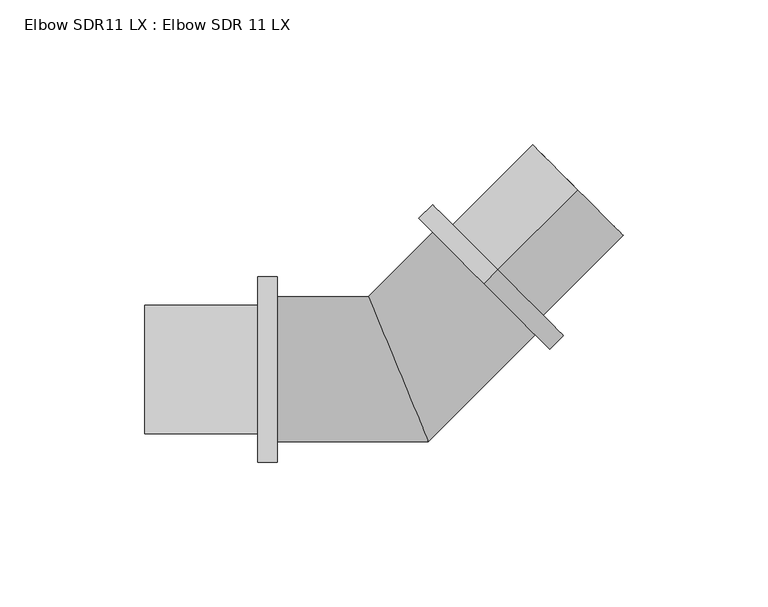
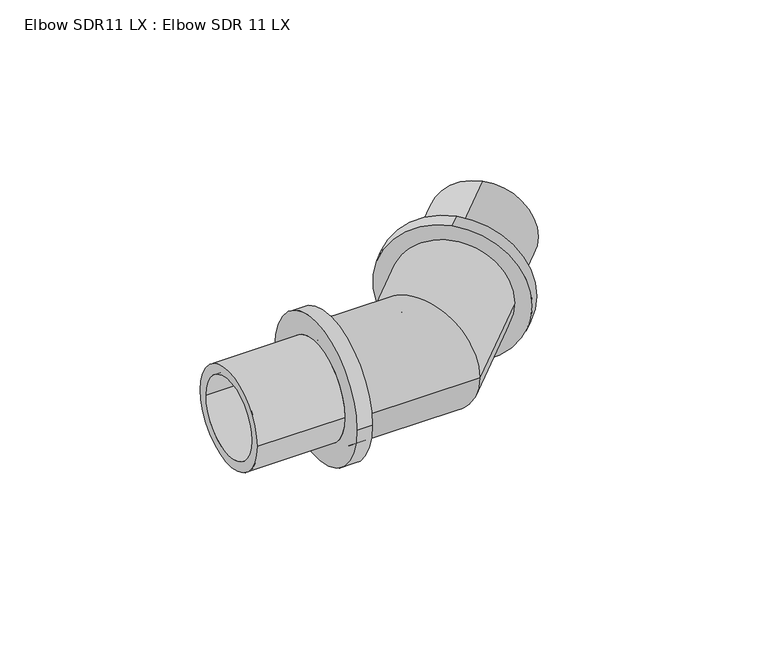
"""IFC4 building model written with IfcOpenShell, lengths in millimetres: pipe fitting geometry, Elbow SDR11 LX : Elbow SDR 11 LX."""

from ifc_helpers import new_model, si_unit, frame, origin, place, context, project, spatial, polyline, circle_curve, ellipse_curve, source, transform, mapped, element, save
from ifc_brep_helpers import plane_surface, cylinder_surface, revolved_surface, advanced_brep


def elbow_sdr11_lx_elbow_sdr_11_lx_cb8a91fe(model_context):
    return source(origin(), model_context, "Body", "AdvancedBrep", [
        advanced_brep(
        [(-41.8, -25.0, 0.0), (-41.8, 25.0, 0.0), (-41.8, -17.75, 0.0), (-41.8, 17.75, 0.0), (10.3553391, -25.0, 0.0), (-10.3553391, 25.0, 0.0), (7.3522907, -17.75, 0.0), (-7.3522907, 17.75, 0.0), (47.234733, 11.8793939, 0.0), (11.8793939, 47.234733, 0.0), (42.1082088, 17.0059181, 0.0), (17.0059181, 42.1082088, 0.0)],
        [
            (0, 1, circle_curve(frame((-41.8, 0.0, 0.0), z_axis=(-1.0, 0.0, 0.0), x_axis=(0.0, 1.0, 0.0)), 25.0)),
            (1, 0, circle_curve(frame((-41.8, 0.0, 0.0), z_axis=(-1.0, 0.0, 0.0), x_axis=(0.0, 1.0, 0.0)), 25.0)),
            (2, 3, circle_curve(frame((-41.8, 0.0, 0.0), z_axis=(1.0, 0.0, 0.0), x_axis=(0.0, 1.0, 0.0)), 17.75)),
            (3, 2, circle_curve(frame((-41.8, 0.0, 0.0), z_axis=(1.0, 0.0, 0.0), x_axis=(0.0, 1.0, 0.0)), 17.75)),
            (0, 4),
            (4, 5, ellipse_curve(frame((0.0, 0.0, 0.0), z_axis=(-0.9238795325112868, -0.38268343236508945, 0.0), x_axis=(-0.3826834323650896, 0.923879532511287, 0.0)), 27.059805, 25.0)),
            (5, 1),
            (5, 4, ellipse_curve(frame((0.0, 0.0, 0.0), z_axis=(-0.9238795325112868, -0.38268343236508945, 0.0), x_axis=(-0.3826834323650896, 0.923879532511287, 0.0)), 27.059805, 25.0)),
            (2, 6),
            (6, 7, ellipse_curve(frame((0.0, 0.0, 0.0), z_axis=(0.9238795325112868, 0.38268343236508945, 0.0), x_axis=(0.3826834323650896, -0.923879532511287, 0.0)), 19.2124616, 17.75)),
            (7, 3),
            (7, 6, ellipse_curve(frame((0.0, 0.0, 0.0), z_axis=(0.9238795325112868, 0.38268343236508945, 0.0), x_axis=(0.3826834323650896, -0.923879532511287, 0.0)), 19.2124616, 17.75)),
            (8, 9, circle_curve(frame((29.5570635, 29.5570635, 0.0), z_axis=(0.707106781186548, 0.707106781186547, 0.0), x_axis=(-0.707106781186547, 0.707106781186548, 0.0)), 25.0)),
            (9, 8, circle_curve(frame((29.5570635, 29.5570635, 0.0), z_axis=(0.707106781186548, 0.707106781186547, 0.0), x_axis=(-0.707106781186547, 0.707106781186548, 0.0)), 25.0)),
            (10, 11, circle_curve(frame((29.5570635, 29.5570635, 0.0), z_axis=(-0.707106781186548, -0.707106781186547, 0.0), x_axis=(-0.707106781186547, 0.707106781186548, 0.0)), 17.75)),
            (11, 10, circle_curve(frame((29.5570635, 29.5570635, 0.0), z_axis=(-0.707106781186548, -0.707106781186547, 0.0), x_axis=(-0.707106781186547, 0.707106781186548, 0.0)), 17.75)),
            (4, 8),
            (9, 5),
            (6, 10),
            (11, 7),
        ],
        [
            plane_surface(frame((-41.8, 0.0, 0.0), z_axis=(-1.0, 0.0, 0.0), x_axis=(0.0, 0.0, 1.0))),
            cylinder_surface(frame((-41.8, 0.0, 0.0), z_axis=(-1.0, 0.0, 0.0), x_axis=(0.0, 1.0, 0.0)), 25.0),
            revolved_surface(polyline([(7.35229074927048, 17.75, 0.0), (-41.8, 17.75, 0.0)]), (-41.8, 0.0, 0.0), (1.0, 0.0, 0.0)),
            plane_surface(frame((29.5570635, 29.5570635, 0.0), z_axis=(0.707106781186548, 0.7071067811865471, 0.0), x_axis=(0.0, 0.0, 1.0))),
            cylinder_surface(frame((0.0, 0.0, 0.0), z_axis=(-0.707106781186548, -0.707106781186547, 0.0), x_axis=(-0.707106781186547, 0.707106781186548, 0.0)), 25.0),
            revolved_surface(polyline([(17.005918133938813, 42.108208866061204, 0.0), (-17.750000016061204, 7.3522907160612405, 0.0)]), (0.0, 0.0, 0.0), (0.707106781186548, 0.707106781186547, 0.0)),
        ],
        [
            (0, [[1, 2], [3, 4]]),
            (1, [[-1, 5, 6, 7]]),
            (1, [[-2, -7, 8, -5]]),
            (2, [[-3, 9, 10, 11]]),
            (2, [[-4, -11, 12, -9]]),
            (3, [[13, 14], [15, 16]]),
            (4, [[-6, 17, -14, 18]]),
            (4, [[-8, -18, -13, -17]]),
            (5, [[-10, 19, -16, 20]]),
            (5, [[-12, -20, -15, -19]]),
        ],
    ),
        advanced_brep(
        [(61.8718434, 61.8718434, 17.75), (61.8718434, 61.8718434, -17.75), (29.5570635, 29.5570635, -17.75), (29.5570635, 29.5570635, 17.75), (34.2946789, 34.2946789, 22.15), (34.2946789, 34.2946789, -22.15), (61.8718434, 61.8718434, -22.15), (61.8718434, 61.8718434, 22.15), (29.5570635, 29.5570635, 32.0), (29.5570635, 29.5570635, -32.0), (34.2946789, 34.2946789, -32.0), (34.2946789, 34.2946789, 32.0)],
        [
            (0, 1, circle_curve(frame((61.8718434, 61.8718434, 0.0), z_axis=(0.7071067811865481, 0.707106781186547, 0.0), x_axis=(0.0, 0.0, -1.0)), 17.75)),
            (1, 2),
            (2, 3, circle_curve(frame((29.5570635, 29.5570635, 0.0), z_axis=(-0.7071067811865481, -0.707106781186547, 0.0), x_axis=(0.0, 0.0, -1.0)), 17.75)),
            (3, 0),
            (4, 5, circle_curve(frame((34.2946789, 34.2946789, 0.0), z_axis=(0.7071067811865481, 0.707106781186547, 0.0), x_axis=(0.0, 0.0, -1.0)), 22.15)),
            (5, 6),
            (6, 7, circle_curve(frame((61.8718434, 61.8718434, 0.0), z_axis=(-0.7071067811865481, -0.707106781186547, 0.0), x_axis=(0.0, 0.0, -1.0)), 22.15)),
            (7, 4),
            (8, 9, circle_curve(frame((29.5570635, 29.5570635, 0.0), z_axis=(0.7071067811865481, 0.707106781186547, 0.0), x_axis=(0.0, 0.0, -1.0)), 32.0)),
            (9, 10),
            (10, 11, circle_curve(frame((34.2946789, 34.2946789, 0.0), z_axis=(-0.7071067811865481, -0.707106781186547, 0.0), x_axis=(0.0, 0.0, -1.0)), 32.0)),
            (11, 8),
            (1, 0, circle_curve(frame((61.8718434, 61.8718434, 0.0), z_axis=(0.7071067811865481, 0.707106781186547, 0.0), x_axis=(0.0, 0.0, 1.0)), 17.75)),
            (3, 2, circle_curve(frame((29.5570635, 29.5570635, 0.0), z_axis=(-0.7071067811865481, -0.707106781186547, 0.0), x_axis=(0.0, 0.0, 1.0)), 17.75)),
            (6, 7, circle_curve(frame((61.8718434, 61.8718434, 0.0), z_axis=(0.7071067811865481, 0.707106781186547, 0.0), x_axis=(0.0, 0.0, 1.0)), 22.15)),
            (5, 4, circle_curve(frame((34.2946789, 34.2946789, 0.0), z_axis=(0.7071067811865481, 0.707106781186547, 0.0), x_axis=(0.0, 0.0, 1.0)), 22.15)),
            (10, 11, circle_curve(frame((34.2946789, 34.2946789, 0.0), z_axis=(0.7071067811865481, 0.707106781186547, 0.0), x_axis=(0.0, 0.0, 1.0)), 32.0)),
            (9, 8, circle_curve(frame((29.5570635, 29.5570635, 0.0), z_axis=(0.7071067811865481, 0.707106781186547, 0.0), x_axis=(0.0, 0.0, 1.0)), 32.0)),
        ],
        [
            revolved_surface(polyline([(29.557063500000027, 29.55706349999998, -17.75), (61.87184340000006, 61.87184339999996, -17.75)]), (0.0, 0.0, 0.0), (-0.7071067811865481, -0.707106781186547, 0.0)),
            cylinder_surface(frame((0.0, 0.0, 0.0), z_axis=(-0.7071067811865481, -0.707106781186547, 0.0), x_axis=(0.0, 0.0, -1.0)), 22.15),
            cylinder_surface(frame((0.0, 0.0, 0.0), z_axis=(-0.7071067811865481, -0.707106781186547, 0.0), x_axis=(0.0, 0.0, -1.0)), 32.0),
            revolved_surface(polyline([(29.557063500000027, 29.55706349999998, 17.75), (61.87184340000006, 61.87184339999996, 17.75)]), (0.0, 0.0, 0.0), (-0.7071067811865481, -0.707106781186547, 0.0)),
            plane_surface(frame((61.8718434, 61.8718434, 0.0), z_axis=(0.7071067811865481, 0.707106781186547, 0.0), x_axis=(0.0, 0.0, 1.0))),
            cylinder_surface(frame((0.0, 0.0, 0.0), z_axis=(-0.7071067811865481, -0.707106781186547, 0.0), x_axis=(0.0, 0.0, 1.0)), 22.15),
            plane_surface(frame((34.2946789, 34.2946789, 0.0), z_axis=(0.7071067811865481, 0.707106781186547, 0.0), x_axis=(0.0, 0.0, 1.0))),
            cylinder_surface(frame((0.0, 0.0, 0.0), z_axis=(-0.7071067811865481, -0.707106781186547, 0.0), x_axis=(0.0, 0.0, 1.0)), 32.0),
            plane_surface(frame((29.5570635, 29.5570635, 0.0), z_axis=(-0.7071067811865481, -0.707106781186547, 0.0), x_axis=(0.0, 0.0, 1.0))),
        ],
        [
            (0, [[1, 2, 3, 4]]),
            (1, [[5, 6, 7, 8]]),
            (2, [[9, 10, 11, 12]]),
            (3, [[13, -4, 14, -2]]),
            (4, [[15, -7], [-13, -1]]),
            (5, [[16, -8, -15, -6]]),
            (6, [[17, -11], [-16, -5]]),
            (7, [[18, -12, -17, -10]]),
            (8, [[-18, -9], [-14, -3]]),
        ],
    ),
        advanced_brep(
        [(-41.8, 32.0, 0.0), (-41.8, -32.0, 0.0), (-48.5, -32.0, 0.0), (-48.5, 32.0, 0.0), (-48.5, 22.15, 0.0), (-48.5, -22.15, 0.0), (-87.5, -22.15, 0.0), (-87.5, 22.15, 0.0), (-87.5, 17.75, 0.0), (-87.5, -17.75, 0.0), (-41.8, -17.75, 0.0), (-41.8, 17.75, 0.0)],
        [
            (0, 1, circle_curve(frame((-41.8, 0.0, 0.0), z_axis=(-1.0, 0.0, 0.0), x_axis=(0.0, -1.0, 0.0)), 32.0)),
            (1, 2),
            (2, 3, circle_curve(frame((-48.5, 0.0, 0.0), z_axis=(1.0, 0.0, 0.0), x_axis=(0.0, -1.0, 0.0)), 32.0)),
            (3, 0),
            (4, 5, circle_curve(frame((-48.5, 0.0, 0.0), z_axis=(-1.0, 0.0, 0.0), x_axis=(0.0, -1.0, 0.0)), 22.15)),
            (5, 6),
            (6, 7, circle_curve(frame((-87.5, 0.0, 0.0), z_axis=(1.0, 0.0, 0.0), x_axis=(0.0, -1.0, 0.0)), 22.15)),
            (7, 4),
            (8, 9, circle_curve(frame((-87.5, 0.0, 0.0), z_axis=(-1.0, 0.0, 0.0), x_axis=(0.0, -1.0, 0.0)), 17.75)),
            (9, 10),
            (10, 11, circle_curve(frame((-41.8, 0.0, 0.0), z_axis=(1.0, 0.0, 0.0), x_axis=(0.0, -1.0, 0.0)), 17.75)),
            (11, 8),
            (0, 1, circle_curve(frame((-41.8, 0.0, 0.0), z_axis=(1.0, 0.0, 0.0), x_axis=(0.0, 1.0, 0.0)), 32.0)),
            (10, 11, circle_curve(frame((-41.8, 0.0, 0.0), z_axis=(-1.0, 0.0, 0.0), x_axis=(0.0, 1.0, 0.0)), 17.75)),
            (3, 2, circle_curve(frame((-48.5, 0.0, 0.0), z_axis=(1.0, 0.0, 0.0), x_axis=(0.0, 1.0, 0.0)), 32.0)),
            (4, 5, circle_curve(frame((-48.5, 0.0, 0.0), z_axis=(1.0, 0.0, 0.0), x_axis=(0.0, 1.0, 0.0)), 22.15)),
            (7, 6, circle_curve(frame((-87.5, 0.0, 0.0), z_axis=(1.0, 0.0, 0.0), x_axis=(0.0, 1.0, 0.0)), 22.15)),
            (8, 9, circle_curve(frame((-87.5, 0.0, 0.0), z_axis=(1.0, 0.0, 0.0), x_axis=(0.0, 1.0, 0.0)), 17.75)),
        ],
        [
            cylinder_surface(frame((0.0, 0.0, 0.0), z_axis=(1.0, 0.0, 0.0), x_axis=(0.0, -1.0, 0.0)), 32.0),
            cylinder_surface(frame((0.0, 0.0, 0.0), z_axis=(1.0, 0.0, 0.0), x_axis=(0.0, -1.0, 0.0)), 22.15),
            revolved_surface(polyline([(-41.8, -17.75, 0.0), (-87.5, -17.75, 0.0)]), (0.0, 0.0, 0.0), (1.0, 0.0, 0.0)),
            plane_surface(frame((-41.8, 0.0, 0.0), z_axis=(1.0, 0.0, 0.0), x_axis=(0.0, 1.0, 0.0))),
            cylinder_surface(frame((0.0, 0.0, 0.0), z_axis=(1.0, 0.0, 0.0), x_axis=(0.0, 1.0, 0.0)), 32.0),
            plane_surface(frame((-48.5, 0.0, 0.0), z_axis=(-1.0, 0.0, 0.0), x_axis=(0.0, 1.0, 0.0))),
            cylinder_surface(frame((0.0, 0.0, 0.0), z_axis=(1.0, 0.0, 0.0), x_axis=(0.0, 1.0, 0.0)), 22.15),
            plane_surface(frame((-87.5, 0.0, 0.0), z_axis=(-1.0, 0.0, 0.0), x_axis=(0.0, 1.0, 0.0))),
            revolved_surface(polyline([(-41.8, 17.75, 0.0), (-87.5, 17.75, 0.0)]), (0.0, 0.0, 0.0), (1.0, 0.0, 0.0)),
        ],
        [
            (0, [[1, 2, 3, 4]]),
            (1, [[5, 6, 7, 8]]),
            (2, [[9, 10, 11, 12]]),
            (3, [[13, -1], [14, -11]]),
            (4, [[-13, -4, 15, -2]]),
            (5, [[-15, -3], [16, -5]]),
            (6, [[-16, -8, 17, -6]]),
            (7, [[-17, -7], [18, -9]]),
            (8, [[-18, -12, -14, -10]]),
        ],
    ),
    ])


if __name__ == "__main__":
    model = new_model("IFC4")
    model_context = context("Model", 3, world=origin())
    ifc_project = project(units=[si_unit("LENGTHUNIT", "METRE", prefix="MILLI")], contexts=[model_context])
    site = spatial("IfcSite", under=ifc_project)
    building = spatial("IfcBuilding", under=site)
    placement = place(None, origin())
    elbow_sdr11_lx_elbow_sdr_11_lx_shape = elbow_sdr11_lx_elbow_sdr_11_lx_cb8a91fe(model_context)
    element("IfcPipeFitting", 1, ObjectType="Elbow SDR11 LX : Elbow SDR 11 LX", at=placement, inside=building, context=model_context, shape_type="MappedRepresentation", body=[
        mapped(elbow_sdr11_lx_elbow_sdr_11_lx_shape, transform((0.0, 0.0, 0.0), x_axis=(1.0, 0.0, 0.0), y_axis=(0.0, 1.0, 0.0), z_axis=(0.0, 0.0, 1.0))),
    ])
    save(model, "model.ifc")
